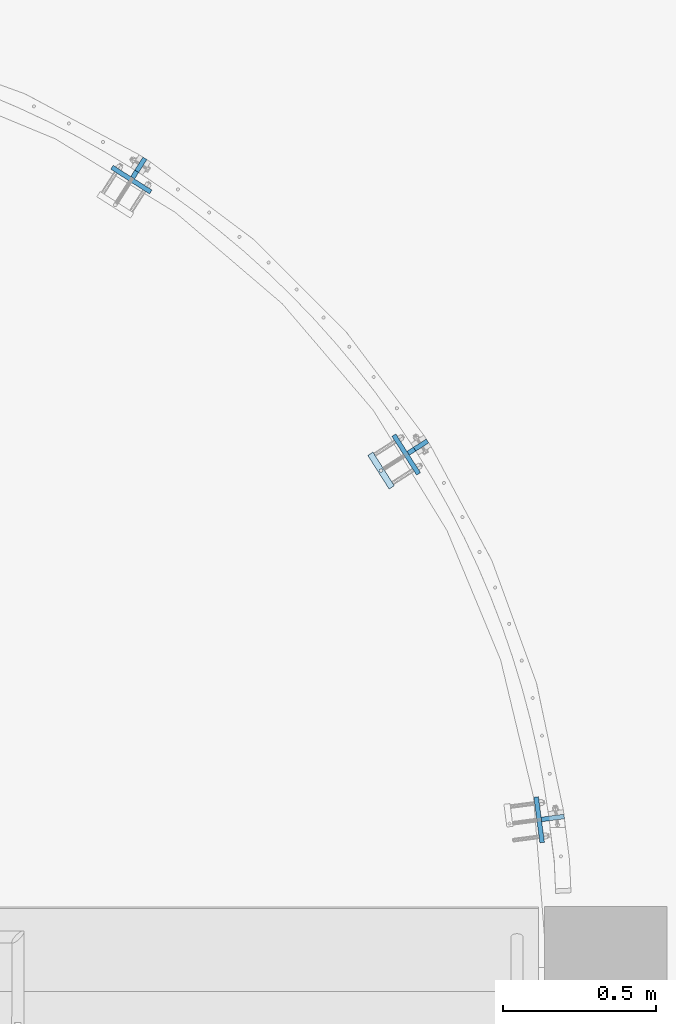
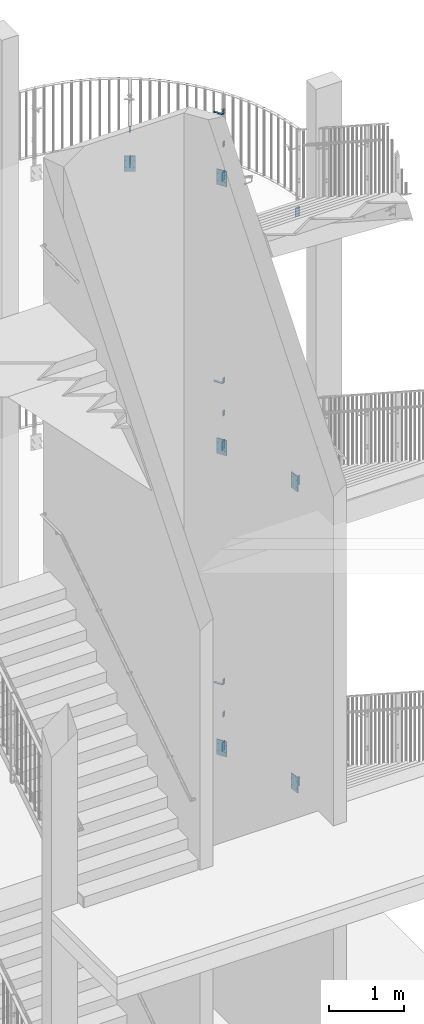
# One storey, part 117 of 296: 23 plates, 55 openings.
"""IFC2X3 building model written with IfcOpenShell, lengths in millimetres."""

from ifc_helpers import new_model, entity, si_unit, converted_unit, frame, frame_2d, origin, origin_with_axes, origin_2d_with_axis, place, context, project, spatial, polyline, circle, outline, extrude, material, layer, layer_set, element, save


model = new_model("IFC2X3")

# Units and contexts
model_context = context("Model", 3, precision=1e-09, world=origin_with_axes())
ifc_project = project(units=[si_unit("LENGTHUNIT", "METRE", prefix="MILLI"), si_unit("AREAUNIT", "SQUARE_METRE"), si_unit("VOLUMEUNIT", "CUBIC_METRE"), converted_unit("PLANEANGLEUNIT", "DEGREE", entity("IfcPlaneAngleMeasure", 0.01745329), si_unit("PLANEANGLEUNIT", "RADIAN"), dimensions=[0, 0, 0, 0, 0, 0, 0])], contexts=[model_context])

# Site, building, storey
site_placement = place(None, origin_with_axes())
site = spatial("IfcSite", under=ifc_project, at=site_placement, Name="TZD-S?d | Treppenhausgel?nder", CompositionType="ELEMENT")
building_placement = place(site_placement, origin_with_axes())
building = spatial("IfcBuilding", under=site, at=building_placement, Name="Struktur 1", CompositionType="ELEMENT")
storey_placement = place(building_placement, origin_with_axes())
storey = spatial("IfcBuildingStorey", under=building, at=storey_placement, Name="Default Storey", CompositionType="ELEMENT", Elevation=0.0)

# Plate, openings
ifc_material = material(Name="S235JR")
ifc_layer_1 = layer(ifc_material, 15.0)
ifc_layer_set_1 = layer_set([ifc_layer_1], Name="S235JR")
plate_1_placement = place(None, frame((4496.601354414, 2366.919979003, 11475.001), z_axis=(-0.537299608, -0.843391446, 0.0), x_axis=(0.843391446, -0.537299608, 0.0)))
plate_1 = element("IfcPlate", 1, at=plate_1_placement, inside=storey, material=ifc_layer_set_1, Name="Girder", ObjectType="Girder", context=model_context, shape_type="SweptSolid", body=[
    extrude(outline(polyline([(-75.0, -125.0), (75.0, -125.0), (75.0, 125.0), (-75.0, 125.0), (-75.0, -125.0)])), origin_with_axes(), (0.0, 0.0, -1.0), 15.0),
])
opening_1_placement = place(plate_1_placement, frame((47.999, 55.0, 0.5), z_axis=(0.0, 0.0, 1.0), x_axis=(1.0, 0.0, 0.0)))
element("IfcOpeningElement", 2, at=opening_1_placement, cuts=plate_1, ObjectType="Opening", context=model_context, shape_type="SweptSolid", body=[
    extrude(circle(Radius=7.001, at=frame_2d((7.001, 0.0), x_axis=(1.0, 0.0))), origin(), (0.0, 0.0, -1.0), 16.0),
])
opening_2_placement = place(plate_1_placement, frame((-62.001, 55.0, 0.5), z_axis=(0.0, 0.0, 1.0), x_axis=(1.0, 0.0, 0.0)))
element("IfcOpeningElement", 3, at=opening_2_placement, cuts=plate_1, ObjectType="Opening", context=model_context, shape_type="SweptSolid", body=[
    extrude(circle(Radius=7.001, at=frame_2d((7.001, 0.0), x_axis=(1.0, 0.0))), origin(), (0.0, 0.0, -1.0), 16.0),
])
opening_3_placement = place(plate_1_placement, frame((47.999, -55.0, 0.5), z_axis=(0.0, 0.0, 1.0), x_axis=(1.0, 0.0, 0.0)))
element("IfcOpeningElement", 4, at=opening_3_placement, cuts=plate_1, ObjectType="Opening", context=model_context, shape_type="SweptSolid", body=[
    extrude(circle(Radius=7.001, at=frame_2d((7.001, 0.0), x_axis=(1.0, 0.0))), origin(), (0.0, 0.0, -1.0), 16.0),
])
opening_4_placement = place(plate_1_placement, frame((-62.001, -55.0, 0.5), z_axis=(0.0, 0.0, 1.0), x_axis=(1.0, 0.0, 0.0)))
element("IfcOpeningElement", 5, at=opening_4_placement, cuts=plate_1, ObjectType="Opening", context=model_context, shape_type="SweptSolid", body=[
    extrude(circle(Radius=7.001, at=frame_2d((7.001, 0.0), x_axis=(1.0, 0.0))), origin(), (0.0, 0.0, -1.0), 16.0),
])

plate_2_placement = place(None, frame((4518.484148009, 2415.22777697, 11475.001), z_axis=(-0.843391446, 0.537299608, 0.0), x_axis=(-0.537299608, -0.843391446, 0.0)))
plate_2 = element("IfcPlate", 6, at=plate_2_placement, inside=storey, material=ifc_layer_set_1, Name="Girder", ObjectType="Girder", context=model_context, shape_type="SweptSolid", body=[
    extrude(outline(polyline([(-37.5, -75.0), (37.5, -75.0), (37.5, 75.0), (-37.5, 75.0), (-37.5, -75.0)])), origin_with_axes(), (0.0, 0.0, -1.0), 15.0),
])
opening_5_placement = place(plate_2_placement, frame((-19.501, 50.0, 0.5), z_axis=(0.0, 0.0, 1.0), x_axis=(1.0, 0.0, 0.0)))
element("IfcOpeningElement", 7, at=opening_5_placement, cuts=plate_2, ObjectType="Opening", context=model_context, shape_type="SweptSolid", body=[
    extrude(circle(Radius=7.001, at=frame_2d((7.001, 0.0), x_axis=(1.0, 0.0))), origin(), (0.0, 0.0, -1.0), 16.0),
])
opening_6_placement = place(plate_2_placement, frame((-19.501, -50.0, 0.5), z_axis=(0.0, 0.0, 1.0), x_axis=(1.0, 0.0, 0.0)))
element("IfcOpeningElement", 8, at=opening_6_placement, cuts=plate_2, ObjectType="Opening", context=model_context, shape_type="SweptSolid", body=[
    extrude(circle(Radius=7.001, at=frame_2d((7.001, 0.0), x_axis=(1.0, 0.0))), origin(), (0.0, 0.0, -1.0), 16.0),
])

plate_3_placement = place(None, frame((4525.200393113, 2425.770170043, 11990.001), z_axis=(-0.843391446, 0.537299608, 0.0), x_axis=(-0.537299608, -0.843391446, 0.0)))
plate_3 = element("IfcPlate", 9, at=plate_3_placement, inside=storey, material=ifc_layer_set_1, Name="Girder", ObjectType="Girder", context=model_context, shape_type="SweptSolid", body=[
    extrude(outline(polyline([(-25.0, -40.0), (25.0, -40.0), (25.0, 40.0), (-25.0, 40.0), (-25.0, -40.0)])), origin_with_axes(), (0.0, 0.0, -1.0), 15.0),
])
opening_7_placement = place(plate_3_placement, frame((-5.001, 24.999999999, 0.5), z_axis=(0.0, 0.0, 1.0), x_axis=(1.0, 0.0, 0.0)))
element("IfcOpeningElement", 10, at=opening_7_placement, cuts=plate_3, ObjectType="Opening", context=model_context, shape_type="SweptSolid", body=[
    extrude(circle(Radius=5.001, at=frame_2d((5.001, 0.0), x_axis=(1.0, 0.0))), origin(), (0.0, 0.0, -1.0), 16.0),
])
opening_8_placement = place(plate_3_placement, frame((-5.001, -25.000000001, 0.5), z_axis=(0.0, 0.0, 1.0), x_axis=(1.0, 0.0, 0.0)))
element("IfcOpeningElement", 11, at=opening_8_placement, cuts=plate_3, ObjectType="Opening", context=model_context, shape_type="SweptSolid", body=[
    extrude(circle(Radius=5.001, at=frame_2d((5.001, 0.0), x_axis=(1.0, 0.0))), origin(), (0.0, 0.0, -1.0), 16.0),
])

plate_4_placement = place(None, frame((5391.919979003, 1471.601354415, 11475.001), z_axis=(-0.843391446, -0.537299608, 0.0), x_axis=(0.537299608, -0.843391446, 0.0)))
plate_4 = element("IfcPlate", 12, at=plate_4_placement, inside=storey, material=ifc_layer_set_1, Name="Girder", ObjectType="Girder", context=model_context, shape_type="SweptSolid", body=[
    extrude(outline(polyline([(-75.0, -125.0), (75.0, -125.0), (75.0, 125.0), (-75.0, 125.0), (-75.0, -125.0)])), origin_with_axes(), (0.0, 0.0, -1.0), 15.0),
])
opening_9_placement = place(plate_4_placement, frame((47.999, 55.0, 0.5), z_axis=(0.0, 0.0, 1.0), x_axis=(1.0, 0.0, 0.0)))
element("IfcOpeningElement", 13, at=opening_9_placement, cuts=plate_4, ObjectType="Opening", context=model_context, shape_type="SweptSolid", body=[
    extrude(circle(Radius=7.001, at=frame_2d((7.001, 0.0), x_axis=(1.0, 0.0))), origin(), (0.0, 0.0, -1.0), 16.0),
])
opening_10_placement = place(plate_4_placement, frame((-62.001, 55.0, 0.5), z_axis=(0.0, 0.0, 1.0), x_axis=(1.0, 0.0, 0.0)))
element("IfcOpeningElement", 14, at=opening_10_placement, cuts=plate_4, ObjectType="Opening", context=model_context, shape_type="SweptSolid", body=[
    extrude(circle(Radius=7.001, at=frame_2d((7.001, 0.0), x_axis=(1.0, 0.0))), origin(), (0.0, 0.0, -1.0), 16.0),
])
opening_11_placement = place(plate_4_placement, frame((47.999, -55.0, 0.5), z_axis=(0.0, 0.0, 1.0), x_axis=(1.0, 0.0, 0.0)))
element("IfcOpeningElement", 15, at=opening_11_placement, cuts=plate_4, ObjectType="Opening", context=model_context, shape_type="SweptSolid", body=[
    extrude(circle(Radius=7.001, at=frame_2d((7.001, 0.0), x_axis=(1.0, 0.0))), origin(), (0.0, 0.0, -1.0), 16.0),
])
opening_12_placement = place(plate_4_placement, frame((-62.001, -55.0, 0.5), z_axis=(0.0, 0.0, 1.0), x_axis=(1.0, 0.0, 0.0)))
element("IfcOpeningElement", 16, at=opening_12_placement, cuts=plate_4, ObjectType="Opening", context=model_context, shape_type="SweptSolid", body=[
    extrude(circle(Radius=7.001, at=frame_2d((7.001, 0.0), x_axis=(1.0, 0.0))), origin(), (0.0, 0.0, -1.0), 16.0),
])

plate_5_placement = place(None, frame((5432.168282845, 1506.135019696, 11475.001), z_axis=(-0.537299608, 0.843391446, 0.0), x_axis=(-0.843391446, -0.537299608, 0.0)))
plate_5 = element("IfcPlate", 17, at=plate_5_placement, inside=storey, material=ifc_layer_set_1, Name="Girder", ObjectType="Girder", context=model_context, shape_type="SweptSolid", body=[
    extrude(outline(polyline([(-37.5, -75.0), (37.5, -75.0), (37.5, 75.0), (-37.5, 75.0), (-37.5, -75.0)])), origin_with_axes(), (0.0, 0.0, -1.0), 15.0),
])
opening_13_placement = place(plate_5_placement, frame((-19.501, 50.0, 0.5), z_axis=(0.0, 0.0, 1.0), x_axis=(1.0, 0.0, 0.0)))
element("IfcOpeningElement", 18, at=opening_13_placement, cuts=plate_5, ObjectType="Opening", context=model_context, shape_type="SweptSolid", body=[
    extrude(circle(Radius=7.001, at=frame_2d((7.001, 0.0), x_axis=(1.0, 0.0))), origin(), (0.0, 0.0, -1.0), 16.0),
])
opening_14_placement = place(plate_5_placement, frame((-19.501, -50.0, 0.5), z_axis=(0.0, 0.0, 1.0), x_axis=(1.0, 0.0, 0.0)))
element("IfcOpeningElement", 19, at=opening_14_placement, cuts=plate_5, ObjectType="Opening", context=model_context, shape_type="SweptSolid", body=[
    extrude(circle(Radius=7.001, at=frame_2d((7.001, 0.0), x_axis=(1.0, 0.0))), origin(), (0.0, 0.0, -1.0), 16.0),
])

plate_6_placement = place(None, frame((5442.710675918, 1512.851264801, 11990.001), z_axis=(-0.537299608, 0.843391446, 0.0), x_axis=(-0.843391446, -0.537299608, 0.0)))
plate_6 = element("IfcPlate", 20, at=plate_6_placement, inside=storey, material=ifc_layer_set_1, Name="Girder", ObjectType="Girder", context=model_context, shape_type="SweptSolid", body=[
    extrude(outline(polyline([(-25.0, -40.0), (25.0, -40.0), (25.0, 40.0), (-25.0, 40.0), (-25.0, -40.0)])), origin_with_axes(), (0.0, 0.0, -1.0), 15.0),
])
opening_15_placement = place(plate_6_placement, frame((-5.001, 24.999999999, 0.5), z_axis=(0.0, 0.0, 1.0), x_axis=(1.0, 0.0, 0.0)))
element("IfcOpeningElement", 21, at=opening_15_placement, cuts=plate_6, ObjectType="Opening", context=model_context, shape_type="SweptSolid", body=[
    extrude(circle(Radius=5.001, at=frame_2d((5.001, 0.0), x_axis=(1.0, 0.0))), origin(), (0.0, 0.0, -1.0), 16.0),
])
opening_16_placement = place(plate_6_placement, frame((-5.001, -25.000000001, 0.5), z_axis=(0.0, 0.0, 1.0), x_axis=(1.0, 0.0, 0.0)))
element("IfcOpeningElement", 22, at=opening_16_placement, cuts=plate_6, ObjectType="Opening", context=model_context, shape_type="SweptSolid", body=[
    extrude(circle(Radius=5.001, at=frame_2d((5.001, 0.0), x_axis=(1.0, 0.0))), origin(), (0.0, 0.0, -1.0), 16.0),
])

plate_7_placement = place(None, frame((5442.710675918, 1512.851264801, 12520.001), z_axis=(-0.537299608, 0.843391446, 0.0), x_axis=(-0.843391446, -0.537299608, 0.0)))
plate_7 = element("IfcPlate", 23, at=plate_7_placement, inside=storey, material=ifc_layer_set_1, Name="Girder", ObjectType="Girder", context=model_context, shape_type="SweptSolid", body=[
    extrude(outline(polyline([(-25.0, -40.0), (25.0, -40.0), (25.0, 40.0), (-25.0, 40.0), (-25.0, -40.0)])), origin_with_axes(), (0.0, 0.0, -1.0), 15.0),
])
opening_17_placement = place(plate_7_placement, frame((-5.001, 24.999999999, 0.5), z_axis=(0.0, 0.0, 1.0), x_axis=(1.0, 0.0, 0.0)))
element("IfcOpeningElement", 24, at=opening_17_placement, cuts=plate_7, ObjectType="Opening", context=model_context, shape_type="SweptSolid", body=[
    extrude(circle(Radius=5.001, at=frame_2d((5.001, 0.0), x_axis=(1.0, 0.0))), origin(), (0.0, 0.0, -1.0), 16.0),
])
opening_18_placement = place(plate_7_placement, frame((-5.001, -25.000000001, 0.5), z_axis=(0.0, 0.0, 1.0), x_axis=(1.0, 0.0, 0.0)))
element("IfcOpeningElement", 25, at=opening_18_placement, cuts=plate_7, ObjectType="Opening", context=model_context, shape_type="SweptSolid", body=[
    extrude(circle(Radius=5.001, at=frame_2d((5.001, 0.0), x_axis=(1.0, 0.0))), origin(), (0.0, 0.0, -1.0), 16.0),
])

# Plate, opening
ifc_layer_2 = layer(ifc_material, 10.0)
ifc_layer_set_2 = layer_set([ifc_layer_2], Name="S235JR")
plate_8_placement = place(None, frame((5316.01474888, 1423.244389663, 12585.0), z_axis=(0.0, 0.0, -1.0), x_axis=(0.537299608, -0.843391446, 0.0)))
plate_8 = element("IfcPlate", 26, at=plate_8_placement, inside=storey, material=ifc_layer_set_2, Name="Girder", ObjectType="Girder", context=model_context, shape_type="SweptSolid", body=[
    extrude(outline(polyline([(-65.0, -10.0), (65.0, -10.0), (65.0, 10.0), (-65.0, 10.0), (-65.0, -10.0)])), origin_with_axes(), (0.0, 0.0, -1.0), 10.0),
])
opening_19_placement = place(plate_8_placement, frame((-3.13e-07, 1.06e-06, 0.5), z_axis=(0.0, 0.0, -1.0), x_axis=(0.537299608, -0.843391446, 0.0)))
element("IfcOpeningElement", 27, at=opening_19_placement, cuts=plate_8, ObjectType="Opening", context=model_context, shape_type="SweptSolid", body=[
    extrude(circle(Radius=5.001, at=origin_2d_with_axis()), origin(), (0.0, 0.0, 1.0), 11.0),
])

# Plate, openings
plate_9_placement = place(None, frame((5876.048128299, 296.077573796, 11475.001), z_axis=(-0.130526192, 0.991444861, 0.0), x_axis=(-0.991444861, -0.130526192, 0.0)))
plate_9 = element("IfcPlate", 28, at=plate_9_placement, inside=storey, material=ifc_layer_set_1, Name="Girder", ObjectType="Girder", context=model_context, shape_type="SweptSolid", body=[
    extrude(outline(polyline([(-37.5, -75.0), (37.5, -75.0), (37.5, 75.0), (-37.5, 75.0), (-37.5, -75.0)])), origin_with_axes(), (0.0, 0.0, -1.0), 15.0),
])
opening_20_placement = place(plate_9_placement, frame((-19.501, 50.0, 0.5), z_axis=(0.0, 0.0, 1.0), x_axis=(1.0, 0.0, 0.0)))
element("IfcOpeningElement", 29, at=opening_20_placement, cuts=plate_9, ObjectType="Opening", context=model_context, shape_type="SweptSolid", body=[
    extrude(circle(Radius=7.001, at=frame_2d((7.001, 0.0), x_axis=(1.0, 0.0))), origin(), (0.0, 0.0, -1.0), 16.0),
])
opening_21_placement = place(plate_9_placement, frame((-19.501, -50.0, 0.5), z_axis=(0.0, 0.0, 1.0), x_axis=(1.0, 0.0, 0.0)))
element("IfcOpeningElement", 30, at=opening_21_placement, cuts=plate_9, ObjectType="Opening", context=model_context, shape_type="SweptSolid", body=[
    extrude(circle(Radius=7.001, at=frame_2d((7.001, 0.0), x_axis=(1.0, 0.0))), origin(), (0.0, 0.0, -1.0), 16.0),
])

plate_10_placement = place(None, frame((5876.048128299, 296.077573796, 7100.001), z_axis=(-0.130526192, 0.991444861, 0.0), x_axis=(-0.991444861, -0.130526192, 0.0)))
plate_10 = element("IfcPlate", 31, at=plate_10_placement, inside=storey, material=ifc_layer_set_1, Name="Girder", ObjectType="Girder", context=model_context, shape_type="SweptSolid", body=[
    extrude(outline(polyline([(-37.5, -75.0), (37.5, -75.0), (37.5, 75.0), (-37.5, 75.0), (-37.5, -75.0)])), origin_with_axes(), (0.0, 0.0, -1.0), 15.0),
])
opening_22_placement = place(plate_10_placement, frame((-19.501, 50.0, 0.5), z_axis=(0.0, 0.0, 1.0), x_axis=(1.0, 0.0, 0.0)))
element("IfcOpeningElement", 32, at=opening_22_placement, cuts=plate_10, ObjectType="Opening", context=model_context, shape_type="SweptSolid", body=[
    extrude(circle(Radius=7.001, at=frame_2d((7.001, 0.0), x_axis=(1.0, 0.0))), origin(), (0.0, 0.0, -1.0), 16.0),
])
opening_23_placement = place(plate_10_placement, frame((-19.501, -50.0, 0.5), z_axis=(0.0, 0.0, 1.0), x_axis=(1.0, 0.0, 0.0)))
element("IfcOpeningElement", 33, at=opening_23_placement, cuts=plate_10, ObjectType="Opening", context=model_context, shape_type="SweptSolid", body=[
    extrude(circle(Radius=7.001, at=frame_2d((7.001, 0.0), x_axis=(1.0, 0.0))), origin(), (0.0, 0.0, -1.0), 16.0),
])

plate_11_placement = place(None, frame((5824.976219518, 281.789112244, 7100.001), z_axis=(-0.991444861, -0.130526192, 0.0), x_axis=(0.130526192, -0.991444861, 0.0)))
plate_11 = element("IfcPlate", 34, at=plate_11_placement, inside=storey, material=ifc_layer_set_1, Name="Girder", ObjectType="Girder", context=model_context, shape_type="SweptSolid", body=[
    extrude(outline(polyline([(-75.0, -125.0), (75.0, -125.0), (75.0, 125.0), (-75.0, 125.0), (-75.0, -125.0)])), origin_with_axes(), (0.0, 0.0, -1.0), 15.0),
])
opening_24_placement = place(plate_11_placement, frame((47.999, 55.0, 0.5), z_axis=(0.0, 0.0, 1.0), x_axis=(1.0, 0.0, 0.0)))
element("IfcOpeningElement", 35, at=opening_24_placement, cuts=plate_11, ObjectType="Opening", context=model_context, shape_type="SweptSolid", body=[
    extrude(circle(Radius=7.001, at=frame_2d((7.001, 0.0), x_axis=(1.0, 0.0))), origin(), (0.0, 0.0, -1.0), 16.0),
])
opening_25_placement = place(plate_11_placement, frame((-62.001, 55.0, 0.5), z_axis=(0.0, 0.0, 1.0), x_axis=(1.0, 0.0, 0.0)))
element("IfcOpeningElement", 36, at=opening_25_placement, cuts=plate_11, ObjectType="Opening", context=model_context, shape_type="SweptSolid", body=[
    extrude(circle(Radius=7.001, at=frame_2d((7.001, 0.0), x_axis=(1.0, 0.0))), origin(), (0.0, 0.0, -1.0), 16.0),
])
opening_26_placement = place(plate_11_placement, frame((47.999, -55.0, 0.5), z_axis=(0.0, 0.0, 1.0), x_axis=(1.0, 0.0, 0.0)))
element("IfcOpeningElement", 37, at=opening_26_placement, cuts=plate_11, ObjectType="Opening", context=model_context, shape_type="SweptSolid", body=[
    extrude(circle(Radius=7.001, at=frame_2d((7.001, 0.0), x_axis=(1.0, 0.0))), origin(), (0.0, 0.0, -1.0), 16.0),
])
opening_27_placement = place(plate_11_placement, frame((-62.001, -55.0, 0.5), z_axis=(0.0, 0.0, 1.0), x_axis=(1.0, 0.0, 0.0)))
element("IfcOpeningElement", 38, at=opening_27_placement, cuts=plate_11, ObjectType="Opening", context=model_context, shape_type="SweptSolid", body=[
    extrude(circle(Radius=7.001, at=frame_2d((7.001, 0.0), x_axis=(1.0, 0.0))), origin(), (0.0, 0.0, -1.0), 16.0),
])

# Plate, opening
plate_12_placement = place(None, frame((5316.01474888, 1423.244389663, 8210.0), z_axis=(0.0, 0.0, -1.0), x_axis=(0.537299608, -0.843391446, 0.0)))
plate_12 = element("IfcPlate", 39, at=plate_12_placement, inside=storey, material=ifc_layer_set_2, Name="Girder", ObjectType="Girder", context=model_context, shape_type="SweptSolid", body=[
    extrude(outline(polyline([(-65.0, -10.0), (65.0, -10.0), (65.0, 10.0), (-65.0, 10.0), (-65.0, -10.0)])), origin_with_axes(), (0.0, 0.0, -1.0), 10.0),
])
opening_28_placement = place(plate_12_placement, frame((5.06e-07, -1.6e-06, 0.5), z_axis=(0.0, 0.0, -1.0), x_axis=(0.537299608, -0.843391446, 0.0)))
element("IfcOpeningElement", 40, at=opening_28_placement, cuts=plate_12, ObjectType="Opening", context=model_context, shape_type="SweptSolid", body=[
    extrude(circle(Radius=5.001, at=origin_2d_with_axis()), origin(), (0.0, 0.0, 1.0), 11.0),
])

# Plate, openings
plate_13_placement = place(None, frame((5442.710675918, 1512.851264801, 8145.001), z_axis=(-0.537299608, 0.843391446, 0.0), x_axis=(-0.843391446, -0.537299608, 0.0)))
plate_13 = element("IfcPlate", 41, at=plate_13_placement, inside=storey, material=ifc_layer_set_1, Name="Girder", ObjectType="Girder", context=model_context, shape_type="SweptSolid", body=[
    extrude(outline(polyline([(-25.0, -40.0), (25.0, -40.0), (25.0, 40.0), (-25.0, 40.0), (-25.0, -40.0)])), origin_with_axes(), (0.0, 0.0, -1.0), 15.0),
])
opening_29_placement = place(plate_13_placement, frame((-5.001, 24.999999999, 0.5), z_axis=(0.0, 0.0, 1.0), x_axis=(1.0, 0.0, 0.0)))
element("IfcOpeningElement", 42, at=opening_29_placement, cuts=plate_13, ObjectType="Opening", context=model_context, shape_type="SweptSolid", body=[
    extrude(circle(Radius=5.001, at=frame_2d((5.001, 0.0), x_axis=(1.0, 0.0))), origin(), (0.0, 0.0, -1.0), 16.0),
])
opening_30_placement = place(plate_13_placement, frame((-5.001, -25.000000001, 0.5), z_axis=(0.0, 0.0, 1.0), x_axis=(1.0, 0.0, 0.0)))
element("IfcOpeningElement", 43, at=opening_30_placement, cuts=plate_13, ObjectType="Opening", context=model_context, shape_type="SweptSolid", body=[
    extrude(circle(Radius=5.001, at=frame_2d((5.001, 0.0), x_axis=(1.0, 0.0))), origin(), (0.0, 0.0, -1.0), 16.0),
])

plate_14_placement = place(None, frame((5442.710675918, 1512.851264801, 7615.001), z_axis=(-0.537299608, 0.843391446, 0.0), x_axis=(-0.843391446, -0.537299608, 0.0)))
plate_14 = element("IfcPlate", 44, at=plate_14_placement, inside=storey, material=ifc_layer_set_1, Name="Girder", ObjectType="Girder", context=model_context, shape_type="SweptSolid", body=[
    extrude(outline(polyline([(-25.0, -40.0), (25.0, -40.0), (25.0, 40.0), (-25.0, 40.0), (-25.0, -40.0)])), origin_with_axes(), (0.0, 0.0, -1.0), 15.0),
])
opening_31_placement = place(plate_14_placement, frame((-5.001, 24.999999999, 0.5), z_axis=(0.0, 0.0, 1.0), x_axis=(1.0, 0.0, 0.0)))
element("IfcOpeningElement", 45, at=opening_31_placement, cuts=plate_14, ObjectType="Opening", context=model_context, shape_type="SweptSolid", body=[
    extrude(circle(Radius=5.001, at=frame_2d((5.001, 0.0), x_axis=(1.0, 0.0))), origin(), (0.0, 0.0, -1.0), 16.0),
])
opening_32_placement = place(plate_14_placement, frame((-5.001, -25.000000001, 0.5), z_axis=(0.0, 0.0, 1.0), x_axis=(1.0, 0.0, 0.0)))
element("IfcOpeningElement", 46, at=opening_32_placement, cuts=plate_14, ObjectType="Opening", context=model_context, shape_type="SweptSolid", body=[
    extrude(circle(Radius=5.001, at=frame_2d((5.001, 0.0), x_axis=(1.0, 0.0))), origin(), (0.0, 0.0, -1.0), 16.0),
])

plate_15_placement = place(None, frame((5432.168282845, 1506.135019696, 7100.001), z_axis=(-0.537299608, 0.843391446, 0.0), x_axis=(-0.843391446, -0.537299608, 0.0)))
plate_15 = element("IfcPlate", 47, at=plate_15_placement, inside=storey, material=ifc_layer_set_1, Name="Girder", ObjectType="Girder", context=model_context, shape_type="SweptSolid", body=[
    extrude(outline(polyline([(-37.5, -75.0), (37.5, -75.0), (37.5, 75.0), (-37.5, 75.0), (-37.5, -75.0)])), origin_with_axes(), (0.0, 0.0, -1.0), 15.0),
])
opening_33_placement = place(plate_15_placement, frame((-19.501, 50.0, 0.5), z_axis=(0.0, 0.0, 1.0), x_axis=(1.0, 0.0, 0.0)))
element("IfcOpeningElement", 48, at=opening_33_placement, cuts=plate_15, ObjectType="Opening", context=model_context, shape_type="SweptSolid", body=[
    extrude(circle(Radius=7.001, at=frame_2d((7.001, 0.0), x_axis=(1.0, 0.0))), origin(), (0.0, 0.0, -1.0), 16.0),
])
opening_34_placement = place(plate_15_placement, frame((-19.501, -50.0, 0.5), z_axis=(0.0, 0.0, 1.0), x_axis=(1.0, 0.0, 0.0)))
element("IfcOpeningElement", 49, at=opening_34_placement, cuts=plate_15, ObjectType="Opening", context=model_context, shape_type="SweptSolid", body=[
    extrude(circle(Radius=7.001, at=frame_2d((7.001, 0.0), x_axis=(1.0, 0.0))), origin(), (0.0, 0.0, -1.0), 16.0),
])

plate_16_placement = place(None, frame((5391.919979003, 1471.601354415, 7100.001), z_axis=(-0.843391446, -0.537299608, 0.0), x_axis=(0.537299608, -0.843391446, 0.0)))
plate_16 = element("IfcPlate", 50, at=plate_16_placement, inside=storey, material=ifc_layer_set_1, Name="Girder", ObjectType="Girder", context=model_context, shape_type="SweptSolid", body=[
    extrude(outline(polyline([(-75.0, -125.0), (75.0, -125.0), (75.0, 125.0), (-75.0, 125.0), (-75.0, -125.0)])), origin_with_axes(), (0.0, 0.0, -1.0), 15.0),
])
opening_35_placement = place(plate_16_placement, frame((47.999, 55.0, 0.5), z_axis=(0.0, 0.0, 1.0), x_axis=(1.0, 0.0, 0.0)))
element("IfcOpeningElement", 51, at=opening_35_placement, cuts=plate_16, ObjectType="Opening", context=model_context, shape_type="SweptSolid", body=[
    extrude(circle(Radius=7.001, at=frame_2d((7.001, 0.0), x_axis=(1.0, 0.0))), origin(), (0.0, 0.0, -1.0), 16.0),
])
opening_36_placement = place(plate_16_placement, frame((-62.001, 55.0, 0.5), z_axis=(0.0, 0.0, 1.0), x_axis=(1.0, 0.0, 0.0)))
element("IfcOpeningElement", 52, at=opening_36_placement, cuts=plate_16, ObjectType="Opening", context=model_context, shape_type="SweptSolid", body=[
    extrude(circle(Radius=7.001, at=frame_2d((7.001, 0.0), x_axis=(1.0, 0.0))), origin(), (0.0, 0.0, -1.0), 16.0),
])
opening_37_placement = place(plate_16_placement, frame((47.999, -55.0, 0.5), z_axis=(0.0, 0.0, 1.0), x_axis=(1.0, 0.0, 0.0)))
element("IfcOpeningElement", 53, at=opening_37_placement, cuts=plate_16, ObjectType="Opening", context=model_context, shape_type="SweptSolid", body=[
    extrude(circle(Radius=7.001, at=frame_2d((7.001, 0.0), x_axis=(1.0, 0.0))), origin(), (0.0, 0.0, -1.0), 16.0),
])
opening_38_placement = place(plate_16_placement, frame((-62.001, -55.0, 0.5), z_axis=(0.0, 0.0, 1.0), x_axis=(1.0, 0.0, 0.0)))
element("IfcOpeningElement", 54, at=opening_38_placement, cuts=plate_16, ObjectType="Opening", context=model_context, shape_type="SweptSolid", body=[
    extrude(circle(Radius=7.001, at=frame_2d((7.001, 0.0), x_axis=(1.0, 0.0))), origin(), (0.0, 0.0, -1.0), 16.0),
])

plate_17_placement = place(None, frame((5876.048128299, 296.077573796, 2200.001), z_axis=(-0.130526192, 0.991444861, 0.0), x_axis=(-0.991444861, -0.130526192, 0.0)))
plate_17 = element("IfcPlate", 55, at=plate_17_placement, inside=storey, material=ifc_layer_set_1, Name="Girder", ObjectType="Girder", context=model_context, shape_type="SweptSolid", body=[
    extrude(outline(polyline([(-37.5, -75.0), (37.5, -75.0), (37.5, 75.0), (-37.5, 75.0), (-37.5, -75.0)])), origin_with_axes(), (0.0, 0.0, -1.0), 15.0),
])
opening_39_placement = place(plate_17_placement, frame((-19.501, 50.0, 0.5), z_axis=(0.0, 0.0, 1.0), x_axis=(1.0, 0.0, 0.0)))
element("IfcOpeningElement", 56, at=opening_39_placement, cuts=plate_17, ObjectType="Opening", context=model_context, shape_type="SweptSolid", body=[
    extrude(circle(Radius=7.001, at=frame_2d((7.001, 0.0), x_axis=(1.0, 0.0))), origin(), (0.0, 0.0, -1.0), 16.0),
])
opening_40_placement = place(plate_17_placement, frame((-19.501, -50.0, 0.5), z_axis=(0.0, 0.0, 1.0), x_axis=(1.0, 0.0, 0.0)))
element("IfcOpeningElement", 57, at=opening_40_placement, cuts=plate_17, ObjectType="Opening", context=model_context, shape_type="SweptSolid", body=[
    extrude(circle(Radius=7.001, at=frame_2d((7.001, 0.0), x_axis=(1.0, 0.0))), origin(), (0.0, 0.0, -1.0), 16.0),
])

plate_18_placement = place(None, frame((5824.976219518, 281.789112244, 2200.001), z_axis=(-0.991444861, -0.130526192, 0.0), x_axis=(0.130526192, -0.991444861, 0.0)))
plate_18 = element("IfcPlate", 58, at=plate_18_placement, inside=storey, material=ifc_layer_set_1, Name="Girder", ObjectType="Girder", context=model_context, shape_type="SweptSolid", body=[
    extrude(outline(polyline([(-75.0, -125.0), (75.0, -125.0), (75.0, 125.0), (-75.0, 125.0), (-75.0, -125.0)])), origin_with_axes(), (0.0, 0.0, -1.0), 15.0),
])
opening_41_placement = place(plate_18_placement, frame((47.999, 55.0, 0.5), z_axis=(0.0, 0.0, 1.0), x_axis=(1.0, 0.0, 0.0)))
element("IfcOpeningElement", 59, at=opening_41_placement, cuts=plate_18, ObjectType="Opening", context=model_context, shape_type="SweptSolid", body=[
    extrude(circle(Radius=7.001, at=frame_2d((7.001, 0.0), x_axis=(1.0, 0.0))), origin(), (0.0, 0.0, -1.0), 16.0),
])
opening_42_placement = place(plate_18_placement, frame((-62.001, 55.0, 0.5), z_axis=(0.0, 0.0, 1.0), x_axis=(1.0, 0.0, 0.0)))
element("IfcOpeningElement", 60, at=opening_42_placement, cuts=plate_18, ObjectType="Opening", context=model_context, shape_type="SweptSolid", body=[
    extrude(circle(Radius=7.001, at=frame_2d((7.001, 0.0), x_axis=(1.0, 0.0))), origin(), (0.0, 0.0, -1.0), 16.0),
])
opening_43_placement = place(plate_18_placement, frame((47.999, -55.0, 0.5), z_axis=(0.0, 0.0, 1.0), x_axis=(1.0, 0.0, 0.0)))
element("IfcOpeningElement", 61, at=opening_43_placement, cuts=plate_18, ObjectType="Opening", context=model_context, shape_type="SweptSolid", body=[
    extrude(circle(Radius=7.001, at=frame_2d((7.001, 0.0), x_axis=(1.0, 0.0))), origin(), (0.0, 0.0, -1.0), 16.0),
])
opening_44_placement = place(plate_18_placement, frame((-62.001, -55.0, 0.5), z_axis=(0.0, 0.0, 1.0), x_axis=(1.0, 0.0, 0.0)))
element("IfcOpeningElement", 62, at=opening_44_placement, cuts=plate_18, ObjectType="Opening", context=model_context, shape_type="SweptSolid", body=[
    extrude(circle(Radius=7.001, at=frame_2d((7.001, 0.0), x_axis=(1.0, 0.0))), origin(), (0.0, 0.0, -1.0), 16.0),
])

# Plate, opening
plate_19_placement = place(None, frame((5316.01474888, 1423.244389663, 3310.0), z_axis=(0.0, 0.0, -1.0), x_axis=(0.537299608, -0.843391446, 0.0)))
plate_19 = element("IfcPlate", 63, at=plate_19_placement, inside=storey, material=ifc_layer_set_2, Name="Girder", ObjectType="Girder", context=model_context, shape_type="SweptSolid", body=[
    extrude(outline(polyline([(-65.0, -10.0), (65.0, -10.0), (65.0, 10.0), (-65.0, 10.0), (-65.0, -10.0)])), origin_with_axes(), (0.0, 0.0, -1.0), 10.0),
])
opening_45_placement = place(plate_19_placement, frame((-9.6e-08, 3.09e-07, 0.5), z_axis=(0.0, 0.0, -1.0), x_axis=(0.537299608, -0.843391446, 0.0)))
element("IfcOpeningElement", 64, at=opening_45_placement, cuts=plate_19, ObjectType="Opening", context=model_context, shape_type="SweptSolid", body=[
    extrude(circle(Radius=5.001, at=origin_2d_with_axis()), origin(), (0.0, 0.0, 1.0), 11.0),
])

# Plate, openings
plate_20_placement = place(None, frame((5442.710675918, 1512.851264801, 3245.001), z_axis=(-0.537299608, 0.843391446, 0.0), x_axis=(-0.843391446, -0.537299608, 0.0)))
plate_20 = element("IfcPlate", 65, at=plate_20_placement, inside=storey, material=ifc_layer_set_1, Name="Girder", ObjectType="Girder", context=model_context, shape_type="SweptSolid", body=[
    extrude(outline(polyline([(-25.0, -40.0), (25.0, -40.0), (25.0, 40.0), (-25.0, 40.0), (-25.0, -40.0)])), origin_with_axes(), (0.0, 0.0, -1.0), 15.0),
])
opening_46_placement = place(plate_20_placement, frame((-5.001, 24.999999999, 0.5), z_axis=(0.0, 0.0, 1.0), x_axis=(1.0, 0.0, 0.0)))
element("IfcOpeningElement", 66, at=opening_46_placement, cuts=plate_20, ObjectType="Opening", context=model_context, shape_type="SweptSolid", body=[
    extrude(circle(Radius=5.001, at=frame_2d((5.001, 0.0), x_axis=(1.0, 0.0))), origin(), (0.0, 0.0, -1.0), 16.0),
])
opening_47_placement = place(plate_20_placement, frame((-5.001, -25.000000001, 0.5), z_axis=(0.0, 0.0, 1.0), x_axis=(1.0, 0.0, 0.0)))
element("IfcOpeningElement", 67, at=opening_47_placement, cuts=plate_20, ObjectType="Opening", context=model_context, shape_type="SweptSolid", body=[
    extrude(circle(Radius=5.001, at=frame_2d((5.001, 0.0), x_axis=(1.0, 0.0))), origin(), (0.0, 0.0, -1.0), 16.0),
])

plate_21_placement = place(None, frame((5442.710675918, 1512.851264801, 2715.001), z_axis=(-0.537299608, 0.843391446, 0.0), x_axis=(-0.843391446, -0.537299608, 0.0)))
plate_21 = element("IfcPlate", 68, at=plate_21_placement, inside=storey, material=ifc_layer_set_1, Name="Girder", ObjectType="Girder", context=model_context, shape_type="SweptSolid", body=[
    extrude(outline(polyline([(-25.0, -40.0), (25.0, -40.0), (25.0, 40.0), (-25.0, 40.0), (-25.0, -40.0)])), origin_with_axes(), (0.0, 0.0, -1.0), 15.0),
])
opening_48_placement = place(plate_21_placement, frame((-5.001, 24.999999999, 0.5), z_axis=(0.0, 0.0, 1.0), x_axis=(1.0, 0.0, 0.0)))
element("IfcOpeningElement", 69, at=opening_48_placement, cuts=plate_21, ObjectType="Opening", context=model_context, shape_type="SweptSolid", body=[
    extrude(circle(Radius=5.001, at=frame_2d((5.001, 0.0), x_axis=(1.0, 0.0))), origin(), (0.0, 0.0, -1.0), 16.0),
])
opening_49_placement = place(plate_21_placement, frame((-5.001, -25.000000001, 0.5), z_axis=(0.0, 0.0, 1.0), x_axis=(1.0, 0.0, 0.0)))
element("IfcOpeningElement", 70, at=opening_49_placement, cuts=plate_21, ObjectType="Opening", context=model_context, shape_type="SweptSolid", body=[
    extrude(circle(Radius=5.001, at=frame_2d((5.001, 0.0), x_axis=(1.0, 0.0))), origin(), (0.0, 0.0, -1.0), 16.0),
])

plate_22_placement = place(None, frame((5432.168282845, 1506.135019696, 2200.001), z_axis=(-0.537299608, 0.843391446, 0.0), x_axis=(-0.843391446, -0.537299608, 0.0)))
plate_22 = element("IfcPlate", 71, at=plate_22_placement, inside=storey, material=ifc_layer_set_1, Name="Girder", ObjectType="Girder", context=model_context, shape_type="SweptSolid", body=[
    extrude(outline(polyline([(-37.5, -75.0), (37.5, -75.0), (37.5, 75.0), (-37.5, 75.0), (-37.5, -75.0)])), origin_with_axes(), (0.0, 0.0, -1.0), 15.0),
])
opening_50_placement = place(plate_22_placement, frame((-19.501, 50.0, 0.5), z_axis=(0.0, 0.0, 1.0), x_axis=(1.0, 0.0, 0.0)))
element("IfcOpeningElement", 72, at=opening_50_placement, cuts=plate_22, ObjectType="Opening", context=model_context, shape_type="SweptSolid", body=[
    extrude(circle(Radius=7.001, at=frame_2d((7.001, 0.0), x_axis=(1.0, 0.0))), origin(), (0.0, 0.0, -1.0), 16.0),
])
opening_51_placement = place(plate_22_placement, frame((-19.501, -50.0, 0.5), z_axis=(0.0, 0.0, 1.0), x_axis=(1.0, 0.0, 0.0)))
element("IfcOpeningElement", 73, at=opening_51_placement, cuts=plate_22, ObjectType="Opening", context=model_context, shape_type="SweptSolid", body=[
    extrude(circle(Radius=7.001, at=frame_2d((7.001, 0.0), x_axis=(1.0, 0.0))), origin(), (0.0, 0.0, -1.0), 16.0),
])

plate_23_placement = place(None, frame((5391.919979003, 1471.601354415, 2200.001), z_axis=(-0.843391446, -0.537299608, 0.0), x_axis=(0.537299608, -0.843391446, 0.0)))
plate_23 = element("IfcPlate", 74, at=plate_23_placement, inside=storey, material=ifc_layer_set_1, Name="Girder", ObjectType="Girder", context=model_context, shape_type="SweptSolid", body=[
    extrude(outline(polyline([(-75.0, -125.0), (75.0, -125.0), (75.0, 125.0), (-75.0, 125.0), (-75.0, -125.0)])), origin_with_axes(), (0.0, 0.0, -1.0), 15.0),
])
opening_52_placement = place(plate_23_placement, frame((47.999, 55.0, 0.5), z_axis=(0.0, 0.0, 1.0), x_axis=(1.0, 0.0, 0.0)))
element("IfcOpeningElement", 75, at=opening_52_placement, cuts=plate_23, ObjectType="Opening", context=model_context, shape_type="SweptSolid", body=[
    extrude(circle(Radius=7.001, at=frame_2d((7.001, 0.0), x_axis=(1.0, 0.0))), origin(), (0.0, 0.0, -1.0), 16.0),
])
opening_53_placement = place(plate_23_placement, frame((-62.001, 55.0, 0.5), z_axis=(0.0, 0.0, 1.0), x_axis=(1.0, 0.0, 0.0)))
element("IfcOpeningElement", 76, at=opening_53_placement, cuts=plate_23, ObjectType="Opening", context=model_context, shape_type="SweptSolid", body=[
    extrude(circle(Radius=7.001, at=frame_2d((7.001, 0.0), x_axis=(1.0, 0.0))), origin(), (0.0, 0.0, -1.0), 16.0),
])
opening_54_placement = place(plate_23_placement, frame((47.999, -55.0, 0.5), z_axis=(0.0, 0.0, 1.0), x_axis=(1.0, 0.0, 0.0)))
element("IfcOpeningElement", 77, at=opening_54_placement, cuts=plate_23, ObjectType="Opening", context=model_context, shape_type="SweptSolid", body=[
    extrude(circle(Radius=7.001, at=frame_2d((7.001, 0.0), x_axis=(1.0, 0.0))), origin(), (0.0, 0.0, -1.0), 16.0),
])
opening_55_placement = place(plate_23_placement, frame((-62.001, -55.0, 0.5), z_axis=(0.0, 0.0, 1.0), x_axis=(1.0, 0.0, 0.0)))
element("IfcOpeningElement", 78, at=opening_55_placement, cuts=plate_23, ObjectType="Opening", context=model_context, shape_type="SweptSolid", body=[
    extrude(circle(Radius=7.001, at=frame_2d((7.001, 0.0), x_axis=(1.0, 0.0))), origin(), (0.0, 0.0, -1.0), 16.0),
])

save(model, "model.ifc")
